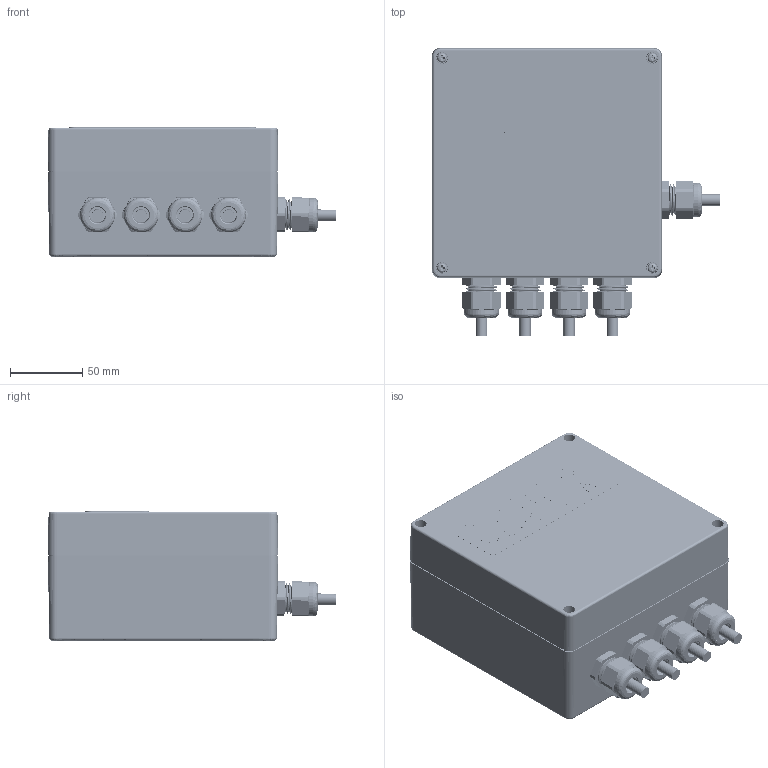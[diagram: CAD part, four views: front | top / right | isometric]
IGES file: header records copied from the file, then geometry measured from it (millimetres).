
Start section: SolidWorks IGES file using analytic representation for surfaces
Global section: file name: C:\0_Work\SolidWorks\HI 6010 Series\HI6010JB-PC2.IGS; native system: SolidWorks 2020; preprocessor: SolidWorks 2020; author: vach01; date: 210607.172311; units: inch
Bounding box: 199.96 x 199.86 x 89.53 mm (x, y, z)
Surface area: 403829.5 mm2 (no closed solid volume)
Topology: 0 solids, 0 shells, 7467 faces, 78842 edges, 78812 vertices
Faces by surface type: bspline 5431, revolution 2036
